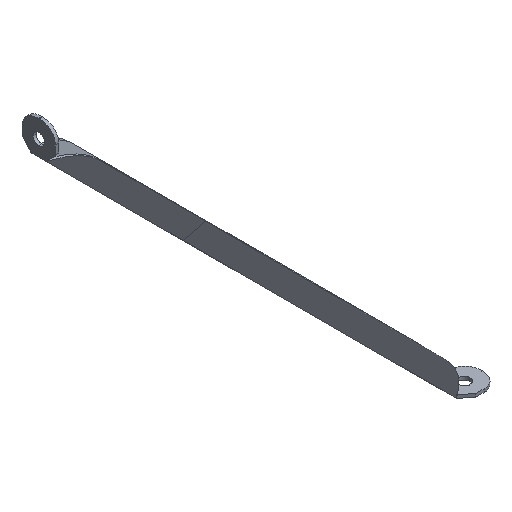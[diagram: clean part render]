
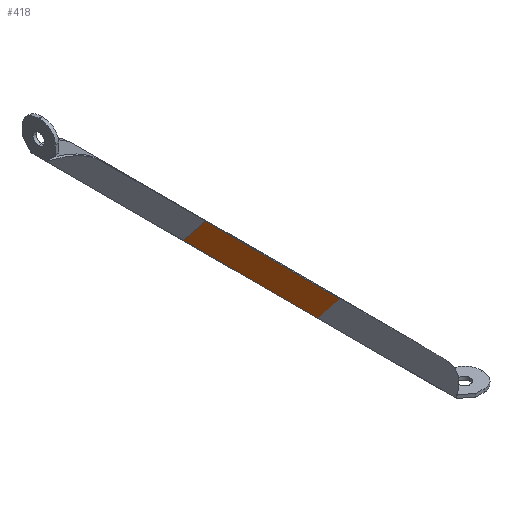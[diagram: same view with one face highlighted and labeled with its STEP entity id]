
A CAD part, isometric view. The second image highlights one B-rep face of the part: STEP entity #418.
In plain terms, the highlighted planar face has unit normal (-0.272, -0.923, -0.272).
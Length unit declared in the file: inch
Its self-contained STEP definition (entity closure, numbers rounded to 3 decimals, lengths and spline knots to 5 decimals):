
#418=ADVANCED_FACE('',(#1019),#1020,.T.);
#566=EDGE_CURVE('',#906,#1159,#1228,.T.);
#906=VERTEX_POINT('',#1705);
#1019=FACE_OUTER_BOUND('',#2004,.T.);
#1020=PLANE('',#2005);
#1159=VERTEX_POINT('',#2266);
#1228=LINE('',#2511,#2512);
#1705=CARTESIAN_POINT('',(-6.38256,0.02943,7.19519));
#2004=EDGE_LOOP('',(#3257,#3258,#3259,#3260));
#2005=AXIS2_PLACEMENT_3D('',#3261,#3262,#3263);
#2266=CARTESIAN_POINT('',(-7.02499,0.40872,6.55276));
#2511=CARTESIAN_POINT('',(-7.02385,0.40805,6.5539));
#2512=VECTOR('',#3461,1.0);
#3257=ORIENTED_EDGE('',*,*,#3765,.T.);
#3258=ORIENTED_EDGE('',*,*,#3759,.F.);
#3259=ORIENTED_EDGE('',*,*,#566,.T.);
#3260=ORIENTED_EDGE('',*,*,#3766,.T.);
#3261=CARTESIAN_POINT('',(-6.70377,0.21907,6.87398));
#3262=DIRECTION('',(-0.272,-0.923,-0.272));
#3263=DIRECTION('',(-0.653,0.385,-0.653));
#3461=DIRECTION('',(-0.653,0.385,-0.653));
#3759=EDGE_CURVE('',#906,#3853,#3855,.T.);
#3765=EDGE_CURVE('',#3861,#3853,#3862,.T.);
#3766=EDGE_CURVE('',#1159,#3861,#3863,.T.);
#3853=VERTEX_POINT('',#3961);
#3855=LINE('',#3964,#3965);
#3861=VERTEX_POINT('',#3971);
#3862=LINE('',#3972,#3973);
#3863=LINE('',#3974,#3975);
#3961=CARTESIAN_POINT('',(-0.20579,0.02943,1.01841));
#3964=CARTESIAN_POINT('',(-6.38256,0.02943,7.19519));
#3965=VECTOR('',#4043,1.0);
#3971=CARTESIAN_POINT('',(-0.84822,0.40872,0.37599));
#3972=CARTESIAN_POINT('',(-0.84708,0.40805,0.37712));
#3973=VECTOR('',#4044,1.0);
#3974=CARTESIAN_POINT('',(-7.02499,0.40872,6.55276));
#3975=VECTOR('',#4045,1.0);
#4043=DIRECTION('',(0.707,0.,-0.707));
#4044=DIRECTION('',(0.653,-0.385,0.653));
#4045=DIRECTION('',(0.707,0.,-0.707));
